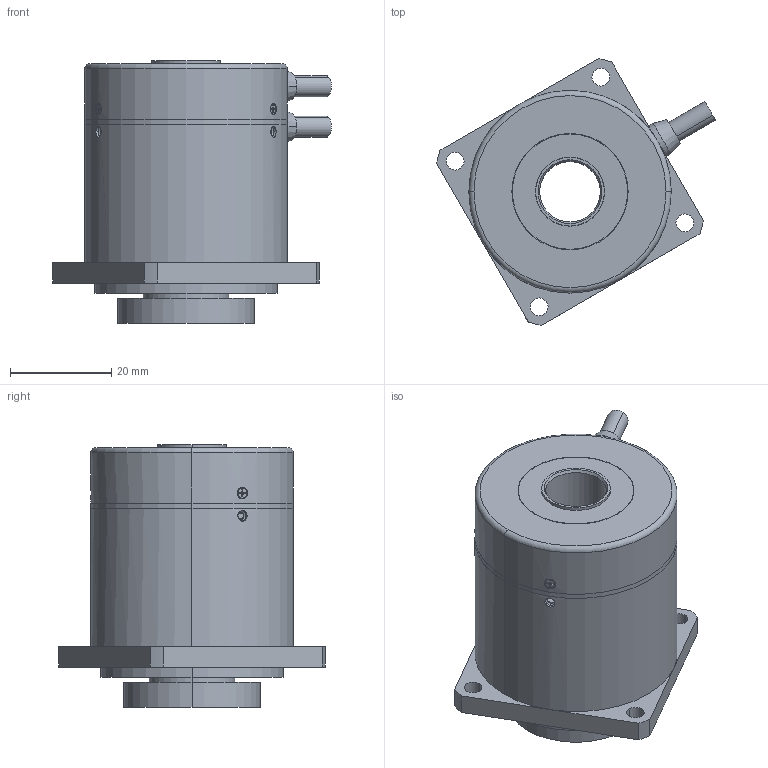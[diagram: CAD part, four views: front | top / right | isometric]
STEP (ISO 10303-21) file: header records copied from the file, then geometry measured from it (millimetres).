
FILE_DESCRIPTION(('STEP AP203'),'1');
FILE_NAME('//192.168.0.150/share/モータ部/0.一般/00.パスボックス/MDH40(12)_3D Model/MDH4018(12)_3Dモデル.step','2018-06-15T00:43:13',(' '),(' '),'Spatial InterOp 3D',' ',' ');
FILE_SCHEMA(('CONFIG_CONTROL_DESIGN'));
Length unit declared in the file: millimetre
Products named in the file (15): 1; 2; 3; 4; 5; 6; 7; 8; 9; 10; 11; 12; 13; 14; 15
Bounding box: 55.15 x 52.78 x 52 mm (x, y, z)
Volume: 21398.3 mm3; surface area: 28837.1 mm2
Topology: 14 solids, 14 shells, 453 faces, 1156 edges, 744 vertices
Faces by surface type: cylinder 194, plane 155, cone 97, torus 4, bspline 3
Entity records: 15044 total; most frequent: CARTESIAN_POINT 3059, DIRECTION 2519, ORIENTED_EDGE 2270, EDGE_CURVE 1135, AXIS2_PLACEMENT_3D 973, VERTEX_POINT 735, LINE 573, VECTOR 573
